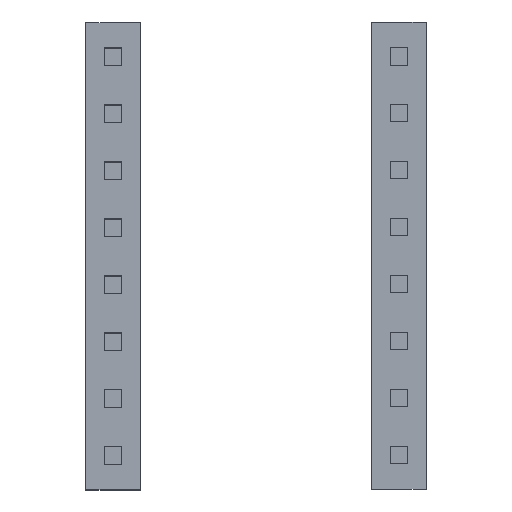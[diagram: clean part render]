
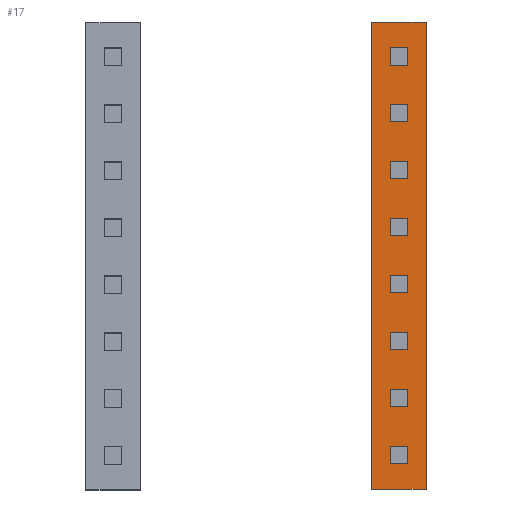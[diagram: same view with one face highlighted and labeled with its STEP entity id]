
A CAD part, top view. The second image highlights one B-rep face of the part: STEP entity #17.
In plain terms, the highlighted planar face has unit normal (0, 0, 1).
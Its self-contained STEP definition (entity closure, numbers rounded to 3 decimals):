
#17 = ADVANCED_FACE('',(#18,#52,#86,#120,#154,#188,#222,#256,#290),#324,
  .T.);
#18 = FACE_BOUND('',#19,.T.);
#19 = EDGE_LOOP('',(#20,#30,#38,#46));
#20 = ORIENTED_EDGE('',*,*,#21,.F.);
#21 = EDGE_CURVE('',#22,#24,#26,.T.);
#22 = VERTEX_POINT('',#23);
#23 = CARTESIAN_POINT('',(6.006,-8.488,8.575));
#24 = VERTEX_POINT('',#25);
#25 = CARTESIAN_POINT('',(6.006,-9.275,8.575));
#26 = LINE('',#27,#28);
#27 = CARTESIAN_POINT('',(6.006,-8.488,8.575));
#28 = VECTOR('',#29,1.);
#29 = DIRECTION('',(0.,-1.,0.));
#30 = ORIENTED_EDGE('',*,*,#31,.F.);
#31 = EDGE_CURVE('',#32,#22,#34,.T.);
#32 = VERTEX_POINT('',#33);
#33 = CARTESIAN_POINT('',(6.794,-8.488,8.575));
#34 = LINE('',#35,#36);
#35 = CARTESIAN_POINT('',(6.794,-8.488,8.575));
#36 = VECTOR('',#37,1.);
#37 = DIRECTION('',(-1.,0.,0.));
#38 = ORIENTED_EDGE('',*,*,#39,.F.);
#39 = EDGE_CURVE('',#40,#32,#42,.T.);
#40 = VERTEX_POINT('',#41);
#41 = CARTESIAN_POINT('',(6.794,-9.275,8.575));
#42 = LINE('',#43,#44);
#43 = CARTESIAN_POINT('',(6.794,-9.275,8.575));
#44 = VECTOR('',#45,1.);
#45 = DIRECTION('',(0.,1.,0.));
#46 = ORIENTED_EDGE('',*,*,#47,.F.);
#47 = EDGE_CURVE('',#24,#40,#48,.T.);
#48 = LINE('',#49,#50);
#49 = CARTESIAN_POINT('',(6.006,-9.275,8.575));
#50 = VECTOR('',#51,1.);
#51 = DIRECTION('',(1.,0.,0.));
#52 = FACE_BOUND('',#53,.T.);
#53 = EDGE_LOOP('',(#54,#64,#72,#80));
#54 = ORIENTED_EDGE('',*,*,#55,.F.);
#55 = EDGE_CURVE('',#56,#58,#60,.T.);
#56 = VERTEX_POINT('',#57);
#57 = CARTESIAN_POINT('',(6.006,-5.948,8.575));
#58 = VERTEX_POINT('',#59);
#59 = CARTESIAN_POINT('',(6.006,-6.735,8.575));
#60 = LINE('',#61,#62);
#61 = CARTESIAN_POINT('',(6.006,-5.948,8.575));
#62 = VECTOR('',#63,1.);
#63 = DIRECTION('',(0.,-1.,0.));
#64 = ORIENTED_EDGE('',*,*,#65,.F.);
#65 = EDGE_CURVE('',#66,#56,#68,.T.);
#66 = VERTEX_POINT('',#67);
#67 = CARTESIAN_POINT('',(6.794,-5.948,8.575));
#68 = LINE('',#69,#70);
#69 = CARTESIAN_POINT('',(6.794,-5.948,8.575));
#70 = VECTOR('',#71,1.);
#71 = DIRECTION('',(-1.,0.,0.));
#72 = ORIENTED_EDGE('',*,*,#73,.F.);
#73 = EDGE_CURVE('',#74,#66,#76,.T.);
#74 = VERTEX_POINT('',#75);
#75 = CARTESIAN_POINT('',(6.794,-6.735,8.575));
#76 = LINE('',#77,#78);
#77 = CARTESIAN_POINT('',(6.794,-6.735,8.575));
#78 = VECTOR('',#79,1.);
#79 = DIRECTION('',(0.,1.,0.));
#80 = ORIENTED_EDGE('',*,*,#81,.F.);
#81 = EDGE_CURVE('',#58,#74,#82,.T.);
#82 = LINE('',#83,#84);
#83 = CARTESIAN_POINT('',(6.006,-6.735,8.575));
#84 = VECTOR('',#85,1.);
#85 = DIRECTION('',(1.,0.,0.));
#86 = FACE_BOUND('',#87,.T.);
#87 = EDGE_LOOP('',(#88,#98,#106,#114));
#88 = ORIENTED_EDGE('',*,*,#89,.F.);
#89 = EDGE_CURVE('',#90,#92,#94,.T.);
#90 = VERTEX_POINT('',#91);
#91 = CARTESIAN_POINT('',(6.006,-3.408,8.575));
#92 = VERTEX_POINT('',#93);
#93 = CARTESIAN_POINT('',(6.006,-4.195,8.575));
#94 = LINE('',#95,#96);
#95 = CARTESIAN_POINT('',(6.006,-3.408,8.575));
#96 = VECTOR('',#97,1.);
#97 = DIRECTION('',(0.,-1.,0.));
#98 = ORIENTED_EDGE('',*,*,#99,.F.);
#99 = EDGE_CURVE('',#100,#90,#102,.T.);
#100 = VERTEX_POINT('',#101);
#101 = CARTESIAN_POINT('',(6.794,-3.408,8.575));
#102 = LINE('',#103,#104);
#103 = CARTESIAN_POINT('',(6.794,-3.408,8.575));
#104 = VECTOR('',#105,1.);
#105 = DIRECTION('',(-1.,0.,0.));
#106 = ORIENTED_EDGE('',*,*,#107,.F.);
#107 = EDGE_CURVE('',#108,#100,#110,.T.);
#108 = VERTEX_POINT('',#109);
#109 = CARTESIAN_POINT('',(6.794,-4.195,8.575));
#110 = LINE('',#111,#112);
#111 = CARTESIAN_POINT('',(6.794,-4.195,8.575));
#112 = VECTOR('',#113,1.);
#113 = DIRECTION('',(0.,1.,0.));
#114 = ORIENTED_EDGE('',*,*,#115,.F.);
#115 = EDGE_CURVE('',#92,#108,#116,.T.);
#116 = LINE('',#117,#118);
#117 = CARTESIAN_POINT('',(6.006,-4.195,8.575));
#118 = VECTOR('',#119,1.);
#119 = DIRECTION('',(1.,0.,0.));
#120 = FACE_BOUND('',#121,.T.);
#121 = EDGE_LOOP('',(#122,#132,#140,#148));
#122 = ORIENTED_EDGE('',*,*,#123,.F.);
#123 = EDGE_CURVE('',#124,#126,#128,.T.);
#124 = VERTEX_POINT('',#125);
#125 = CARTESIAN_POINT('',(6.006,-0.868,8.575));
#126 = VERTEX_POINT('',#127);
#127 = CARTESIAN_POINT('',(6.006,-1.655,8.575));
#128 = LINE('',#129,#130);
#129 = CARTESIAN_POINT('',(6.006,-0.868,8.575));
#130 = VECTOR('',#131,1.);
#131 = DIRECTION('',(0.,-1.,0.));
#132 = ORIENTED_EDGE('',*,*,#133,.F.);
#133 = EDGE_CURVE('',#134,#124,#136,.T.);
#134 = VERTEX_POINT('',#135);
#135 = CARTESIAN_POINT('',(6.794,-0.868,8.575));
#136 = LINE('',#137,#138);
#137 = CARTESIAN_POINT('',(6.794,-0.868,8.575));
#138 = VECTOR('',#139,1.);
#139 = DIRECTION('',(-1.,0.,0.));
#140 = ORIENTED_EDGE('',*,*,#141,.F.);
#141 = EDGE_CURVE('',#142,#134,#144,.T.);
#142 = VERTEX_POINT('',#143);
#143 = CARTESIAN_POINT('',(6.794,-1.655,8.575));
#144 = LINE('',#145,#146);
#145 = CARTESIAN_POINT('',(6.794,-1.655,8.575));
#146 = VECTOR('',#147,1.);
#147 = DIRECTION('',(0.,1.,0.));
#148 = ORIENTED_EDGE('',*,*,#149,.F.);
#149 = EDGE_CURVE('',#126,#142,#150,.T.);
#150 = LINE('',#151,#152);
#151 = CARTESIAN_POINT('',(6.006,-1.655,8.575));
#152 = VECTOR('',#153,1.);
#153 = DIRECTION('',(1.,0.,0.));
#154 = FACE_BOUND('',#155,.T.);
#155 = EDGE_LOOP('',(#156,#166,#174,#182));
#156 = ORIENTED_EDGE('',*,*,#157,.F.);
#157 = EDGE_CURVE('',#158,#160,#162,.T.);
#158 = VERTEX_POINT('',#159);
#159 = CARTESIAN_POINT('',(6.006,1.672,8.575));
#160 = VERTEX_POINT('',#161);
#161 = CARTESIAN_POINT('',(6.006,0.885,8.575));
#162 = LINE('',#163,#164);
#163 = CARTESIAN_POINT('',(6.006,1.672,8.575));
#164 = VECTOR('',#165,1.);
#165 = DIRECTION('',(0.,-1.,0.));
#166 = ORIENTED_EDGE('',*,*,#167,.F.);
#167 = EDGE_CURVE('',#168,#158,#170,.T.);
#168 = VERTEX_POINT('',#169);
#169 = CARTESIAN_POINT('',(6.794,1.672,8.575));
#170 = LINE('',#171,#172);
#171 = CARTESIAN_POINT('',(6.794,1.672,8.575));
#172 = VECTOR('',#173,1.);
#173 = DIRECTION('',(-1.,0.,0.));
#174 = ORIENTED_EDGE('',*,*,#175,.F.);
#175 = EDGE_CURVE('',#176,#168,#178,.T.);
#176 = VERTEX_POINT('',#177);
#177 = CARTESIAN_POINT('',(6.794,0.885,8.575));
#178 = LINE('',#179,#180);
#179 = CARTESIAN_POINT('',(6.794,0.885,8.575));
#180 = VECTOR('',#181,1.);
#181 = DIRECTION('',(0.,1.,0.));
#182 = ORIENTED_EDGE('',*,*,#183,.F.);
#183 = EDGE_CURVE('',#160,#176,#184,.T.);
#184 = LINE('',#185,#186);
#185 = CARTESIAN_POINT('',(6.006,0.885,8.575));
#186 = VECTOR('',#187,1.);
#187 = DIRECTION('',(1.,0.,0.));
#188 = FACE_BOUND('',#189,.T.);
#189 = EDGE_LOOP('',(#190,#200,#208,#216));
#190 = ORIENTED_EDGE('',*,*,#191,.F.);
#191 = EDGE_CURVE('',#192,#194,#196,.T.);
#192 = VERTEX_POINT('',#193);
#193 = CARTESIAN_POINT('',(6.006,4.212,8.575));
#194 = VERTEX_POINT('',#195);
#195 = CARTESIAN_POINT('',(6.006,3.425,8.575));
#196 = LINE('',#197,#198);
#197 = CARTESIAN_POINT('',(6.006,4.212,8.575));
#198 = VECTOR('',#199,1.);
#199 = DIRECTION('',(0.,-1.,0.));
#200 = ORIENTED_EDGE('',*,*,#201,.F.);
#201 = EDGE_CURVE('',#202,#192,#204,.T.);
#202 = VERTEX_POINT('',#203);
#203 = CARTESIAN_POINT('',(6.794,4.212,8.575));
#204 = LINE('',#205,#206);
#205 = CARTESIAN_POINT('',(6.794,4.212,8.575));
#206 = VECTOR('',#207,1.);
#207 = DIRECTION('',(-1.,0.,0.));
#208 = ORIENTED_EDGE('',*,*,#209,.F.);
#209 = EDGE_CURVE('',#210,#202,#212,.T.);
#210 = VERTEX_POINT('',#211);
#211 = CARTESIAN_POINT('',(6.794,3.425,8.575));
#212 = LINE('',#213,#214);
#213 = CARTESIAN_POINT('',(6.794,3.425,8.575));
#214 = VECTOR('',#215,1.);
#215 = DIRECTION('',(0.,1.,0.));
#216 = ORIENTED_EDGE('',*,*,#217,.F.);
#217 = EDGE_CURVE('',#194,#210,#218,.T.);
#218 = LINE('',#219,#220);
#219 = CARTESIAN_POINT('',(6.006,3.425,8.575));
#220 = VECTOR('',#221,1.);
#221 = DIRECTION('',(1.,0.,0.));
#222 = FACE_BOUND('',#223,.T.);
#223 = EDGE_LOOP('',(#224,#234,#242,#250));
#224 = ORIENTED_EDGE('',*,*,#225,.F.);
#225 = EDGE_CURVE('',#226,#228,#230,.T.);
#226 = VERTEX_POINT('',#227);
#227 = CARTESIAN_POINT('',(6.006,6.752,8.575));
#228 = VERTEX_POINT('',#229);
#229 = CARTESIAN_POINT('',(6.006,5.965,8.575));
#230 = LINE('',#231,#232);
#231 = CARTESIAN_POINT('',(6.006,6.752,8.575));
#232 = VECTOR('',#233,1.);
#233 = DIRECTION('',(0.,-1.,0.));
#234 = ORIENTED_EDGE('',*,*,#235,.F.);
#235 = EDGE_CURVE('',#236,#226,#238,.T.);
#236 = VERTEX_POINT('',#237);
#237 = CARTESIAN_POINT('',(6.794,6.752,8.575));
#238 = LINE('',#239,#240);
#239 = CARTESIAN_POINT('',(6.794,6.752,8.575));
#240 = VECTOR('',#241,1.);
#241 = DIRECTION('',(-1.,0.,0.));
#242 = ORIENTED_EDGE('',*,*,#243,.F.);
#243 = EDGE_CURVE('',#244,#236,#246,.T.);
#244 = VERTEX_POINT('',#245);
#245 = CARTESIAN_POINT('',(6.794,5.965,8.575));
#246 = LINE('',#247,#248);
#247 = CARTESIAN_POINT('',(6.794,5.965,8.575));
#248 = VECTOR('',#249,1.);
#249 = DIRECTION('',(0.,1.,0.));
#250 = ORIENTED_EDGE('',*,*,#251,.F.);
#251 = EDGE_CURVE('',#228,#244,#252,.T.);
#252 = LINE('',#253,#254);
#253 = CARTESIAN_POINT('',(6.006,5.965,8.575));
#254 = VECTOR('',#255,1.);
#255 = DIRECTION('',(1.,0.,0.));
#256 = FACE_BOUND('',#257,.T.);
#257 = EDGE_LOOP('',(#258,#268,#276,#284));
#258 = ORIENTED_EDGE('',*,*,#259,.F.);
#259 = EDGE_CURVE('',#260,#262,#264,.T.);
#260 = VERTEX_POINT('',#261);
#261 = CARTESIAN_POINT('',(6.006,9.292,8.575));
#262 = VERTEX_POINT('',#263);
#263 = CARTESIAN_POINT('',(6.006,8.505,8.575));
#264 = LINE('',#265,#266);
#265 = CARTESIAN_POINT('',(6.006,9.292,8.575));
#266 = VECTOR('',#267,1.);
#267 = DIRECTION('',(0.,-1.,0.));
#268 = ORIENTED_EDGE('',*,*,#269,.F.);
#269 = EDGE_CURVE('',#270,#260,#272,.T.);
#270 = VERTEX_POINT('',#271);
#271 = CARTESIAN_POINT('',(6.794,9.292,8.575));
#272 = LINE('',#273,#274);
#273 = CARTESIAN_POINT('',(6.794,9.292,8.575));
#274 = VECTOR('',#275,1.);
#275 = DIRECTION('',(-1.,0.,0.));
#276 = ORIENTED_EDGE('',*,*,#277,.F.);
#277 = EDGE_CURVE('',#278,#270,#280,.T.);
#278 = VERTEX_POINT('',#279);
#279 = CARTESIAN_POINT('',(6.794,8.505,8.575));
#280 = LINE('',#281,#282);
#281 = CARTESIAN_POINT('',(6.794,8.505,8.575));
#282 = VECTOR('',#283,1.);
#283 = DIRECTION('',(0.,1.,0.));
#284 = ORIENTED_EDGE('',*,*,#285,.F.);
#285 = EDGE_CURVE('',#262,#278,#286,.T.);
#286 = LINE('',#287,#288);
#287 = CARTESIAN_POINT('',(6.006,8.505,8.575));
#288 = VECTOR('',#289,1.);
#289 = DIRECTION('',(1.,0.,0.));
#290 = FACE_BOUND('',#291,.T.);
#291 = EDGE_LOOP('',(#292,#302,#310,#318));
#292 = ORIENTED_EDGE('',*,*,#293,.T.);
#293 = EDGE_CURVE('',#294,#296,#298,.T.);
#294 = VERTEX_POINT('',#295);
#295 = CARTESIAN_POINT('',(5.194,10.423,8.575));
#296 = VERTEX_POINT('',#297);
#297 = CARTESIAN_POINT('',(5.194,-10.405,8.575));
#298 = LINE('',#299,#300);
#299 = CARTESIAN_POINT('',(5.194,10.423,8.575));
#300 = VECTOR('',#301,1.);
#301 = DIRECTION('',(0.,-1.,0.));
#302 = ORIENTED_EDGE('',*,*,#303,.T.);
#303 = EDGE_CURVE('',#296,#304,#306,.T.);
#304 = VERTEX_POINT('',#305);
#305 = CARTESIAN_POINT('',(7.607,-10.405,8.575));
#306 = LINE('',#307,#308);
#307 = CARTESIAN_POINT('',(5.194,-10.405,8.575));
#308 = VECTOR('',#309,1.);
#309 = DIRECTION('',(1.,0.,0.));
#310 = ORIENTED_EDGE('',*,*,#311,.T.);
#311 = EDGE_CURVE('',#304,#312,#314,.T.);
#312 = VERTEX_POINT('',#313);
#313 = CARTESIAN_POINT('',(7.607,10.423,8.575));
#314 = LINE('',#315,#316);
#315 = CARTESIAN_POINT('',(7.607,-10.405,8.575));
#316 = VECTOR('',#317,1.);
#317 = DIRECTION('',(0.,1.,0.));
#318 = ORIENTED_EDGE('',*,*,#319,.T.);
#319 = EDGE_CURVE('',#312,#294,#320,.T.);
#320 = LINE('',#321,#322);
#321 = CARTESIAN_POINT('',(7.607,10.423,8.575));
#322 = VECTOR('',#323,1.);
#323 = DIRECTION('',(-1.,0.,0.));
#324 = PLANE('',#325);
#325 = AXIS2_PLACEMENT_3D('',#326,#327,#328);
#326 = CARTESIAN_POINT('',(6.4,0.009,8.575));
#327 = DIRECTION('',(0.,0.,1.));
#328 = DIRECTION('',(1.,0.,0.));
